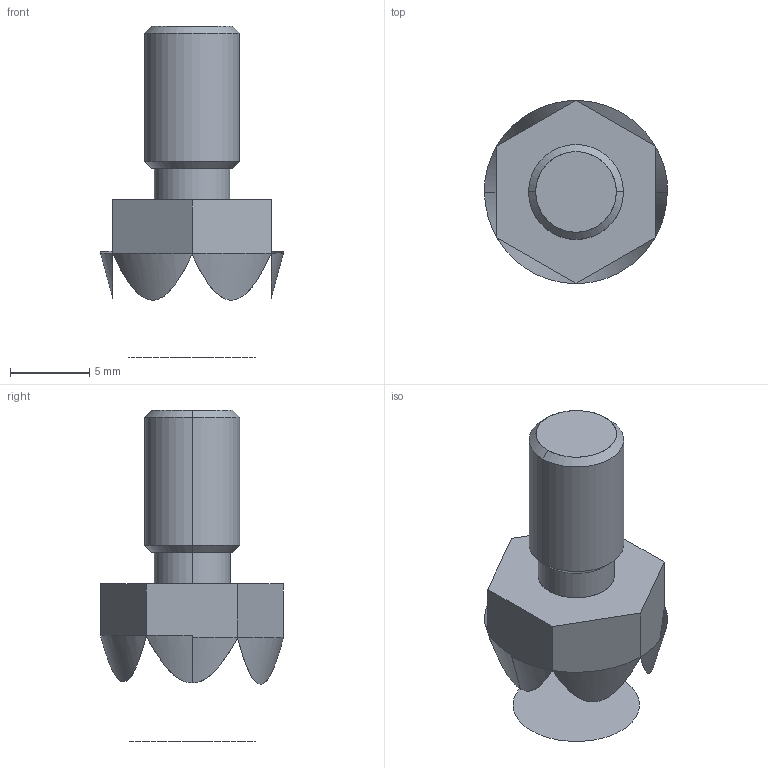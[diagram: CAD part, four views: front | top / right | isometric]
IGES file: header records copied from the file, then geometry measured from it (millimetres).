
Start section: SolidWorks IGES FILE using analytic representation for surfaces
Global section: file name: C:\WIX2\Positioning\3600\3600W061.igs; native system: SolidWorks 2003 by SolidWorks Corporation; preprocessor: Version 5.3; author: Joan; date: 030722.164455; units: millimetre
Bounding box: 11.62 x 11.56 x 21 mm (x, y, z)
Surface area: 601.7 mm2 (no closed solid volume)
Topology: 0 solids, 0 shells, 20 faces, 324 edges, 322 vertices
Faces by surface type: revolution 10, bspline 10
